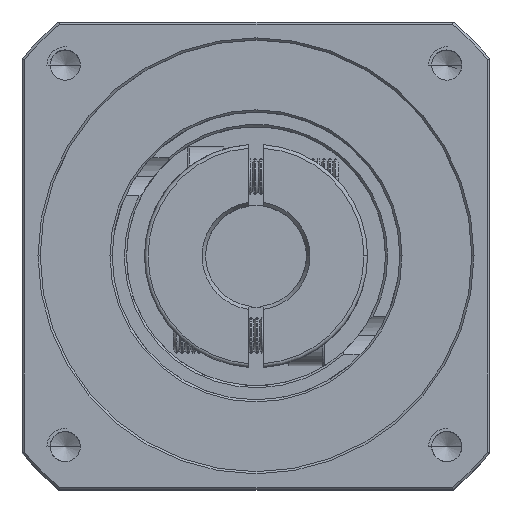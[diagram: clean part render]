
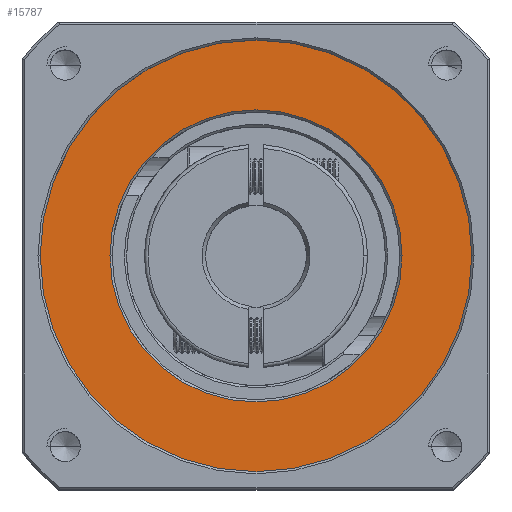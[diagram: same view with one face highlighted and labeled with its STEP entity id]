
A CAD part, top view. The second image highlights one B-rep face of the part: STEP entity #15787.
In plain terms, the highlighted planar face has unit normal (0, 0, 1).
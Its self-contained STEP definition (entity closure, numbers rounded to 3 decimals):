
#1541 = FACE_BOUND ( 'NONE', #108382, .T. ) ;
#2051 = EDGE_CURVE ( 'NONE', #62112, #15667, #40408, .T. ) ;
#4076 = AXIS2_PLACEMENT_3D ( 'NONE', #33295, #94368, #42068 ) ;
#4980 = EDGE_LOOP ( 'NONE', ( #81654, #12750 ) ) ;
#6598 = AXIS2_PLACEMENT_3D ( 'NONE', #12901, #74088, #21774 ) ;
#8955 = CARTESIAN_POINT ( 'NONE',  ( -94.661, 33.999, 21.993 ) ) ;
#9628 = CARTESIAN_POINT ( 'NONE',  ( -84.961, 33.999, 21.993 ) ) ;
#12750 = ORIENTED_EDGE ( 'NONE', *, *, #41559, .T. ) ;
#12901 = CARTESIAN_POINT ( 'NONE',  ( -64.661, 33.999, 21.993 ) ) ;
#15667 = VERTEX_POINT ( 'NONE', #9628 ) ;
#15747 = AXIS2_PLACEMENT_3D ( 'NONE', #29144, #90266, #37967 ) ;
#15787 = ADVANCED_FACE ( 'NONE', ( #1541, #48148 ), #107399, .T. ) ;
#17281 = ORIENTED_EDGE ( 'NONE', *, *, #44197, .T. ) ;
#21774 = DIRECTION ( 'NONE',  ( 1., 0., 0. ) ) ;
#29144 = CARTESIAN_POINT ( 'NONE',  ( -64.661, 33.999, 21.993 ) ) ;
#29899 = DIRECTION ( 'NONE',  ( 0., 0., 1. ) ) ;
#33295 = CARTESIAN_POINT ( 'NONE',  ( -64.661, 33.999, 21.993 ) ) ;
#35996 = ORIENTED_EDGE ( 'NONE', *, *, #2051, .T. ) ;
#37967 = DIRECTION ( 'NONE',  ( 1., 0., 0. ) ) ;
#40408 = CIRCLE ( 'NONE', #82075, 20.3 ) ;
#41559 = EDGE_CURVE ( 'NONE', #93552, #85322, #92072, .T. ) ;
#42068 = DIRECTION ( 'NONE',  ( 1., 0., 0. ) ) ;
#44197 = EDGE_CURVE ( 'NONE', #15667, #62112, #88432, .T. ) ;
#48148 = FACE_OUTER_BOUND ( 'NONE', #4980, .T. ) ;
#62112 = VERTEX_POINT ( 'NONE', #72402 ) ;
#72402 = CARTESIAN_POINT ( 'NONE',  ( -44.361, 33.999, 21.993 ) ) ;
#74088 = DIRECTION ( 'NONE',  ( 0., 0., -1. ) ) ;
#80283 = DIRECTION ( 'NONE',  ( 1., 0., 0. ) ) ;
#80331 = CARTESIAN_POINT ( 'NONE',  ( -34.661, 33.999, 21.993 ) ) ;
#81023 = DIRECTION ( 'NONE',  ( 0., 0., -1. ) ) ;
#81390 = CARTESIAN_POINT ( 'NONE',  ( -64.661, 33.999, 21.993 ) ) ;
#81469 = EDGE_CURVE ( 'NONE', #85322, #93552, #96115, .T. ) ;
#81654 = ORIENTED_EDGE ( 'NONE', *, *, #81469, .T. ) ;
#82075 = AXIS2_PLACEMENT_3D ( 'NONE', #81390, #81023, #80283 ) ;
#82268 = CARTESIAN_POINT ( 'NONE',  ( -64.661, 33.999, 21.993 ) ) ;
#85322 = VERTEX_POINT ( 'NONE', #80331 ) ;
#88432 = CIRCLE ( 'NONE', #6598, 20.3 ) ;
#90266 = DIRECTION ( 'NONE',  ( 0., 0., 1. ) ) ;
#90995 = DIRECTION ( 'NONE',  ( 1., 0., 0. ) ) ;
#92072 = CIRCLE ( 'NONE', #4076, 30. ) ;
#93552 = VERTEX_POINT ( 'NONE', #8955 ) ;
#94368 = DIRECTION ( 'NONE',  ( 0., 0., 1. ) ) ;
#96115 = CIRCLE ( 'NONE', #111212, 30. ) ;
#107399 = PLANE ( 'NONE',  #15747 ) ;
#108382 = EDGE_LOOP ( 'NONE', ( #35996, #17281 ) ) ;
#111212 = AXIS2_PLACEMENT_3D ( 'NONE', #82268, #29899, #90995 ) ;
